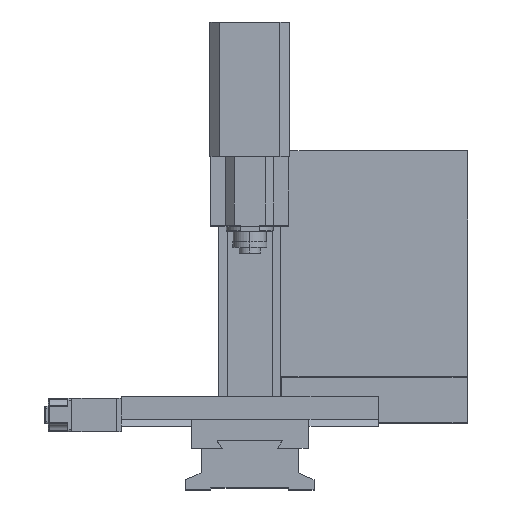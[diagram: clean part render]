
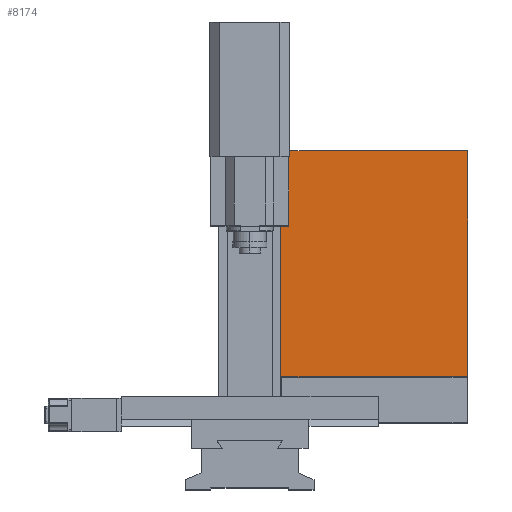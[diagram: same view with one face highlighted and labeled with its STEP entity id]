
A CAD part, top view. The second image highlights one B-rep face of the part: STEP entity #8174.
In plain terms, the highlighted planar face has unit normal (0, 0, 1).
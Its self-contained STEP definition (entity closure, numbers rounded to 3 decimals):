
#873 = EDGE_CURVE ( 'NONE', #4693, #4678, #6381, .T. ) ;
#877 = EDGE_CURVE ( 'NONE', #4678, #4694, #6377, .T. ) ;
#880 = EDGE_CURVE ( 'NONE', #4694, #4698, #6371, .T. ) ;
#882 = EDGE_CURVE ( 'NONE', #4698, #4693, #6361, .T. ) ;
#1230 = AXIS2_PLACEMENT_3D ( 'NONE', #2207, #2212, #2213 ) ;
#1545 = EDGE_LOOP ( 'NONE', ( #3090, #3089, #3088, #3087 ) ) ;
#2206 = PLANE ( 'NONE',  #1230 ) ;
#2207 = CARTESIAN_POINT ( 'NONE',  ( 0., 0., 180. ) ) ;
#2212 = DIRECTION ( 'NONE',  ( 0., 0., -1. ) ) ;
#2213 = DIRECTION ( 'NONE',  ( -1., 0., 0. ) ) ;
#3087 = ORIENTED_EDGE ( 'NONE', *, *, #882, .T. ) ;
#3088 = ORIENTED_EDGE ( 'NONE', *, *, #880, .T. ) ;
#3089 = ORIENTED_EDGE ( 'NONE', *, *, #877, .T. ) ;
#3090 = ORIENTED_EDGE ( 'NONE', *, *, #873, .T. ) ;
#4678 = VERTEX_POINT ( 'NONE', #10838 ) ;
#4693 = VERTEX_POINT ( 'NONE', #10853 ) ;
#4694 = VERTEX_POINT ( 'NONE', #10854 ) ;
#4698 = VERTEX_POINT ( 'NONE', #10858 ) ;
#5893 = FACE_OUTER_BOUND ( 'NONE', #1545, .T. ) ;
#6358 = VECTOR ( 'NONE', #6925, 1000. ) ;
#6361 = LINE ( 'NONE', #6924, #6358 ) ;
#6362 = VECTOR ( 'NONE', #6921, 1000. ) ;
#6368 = VECTOR ( 'NONE', #6916, 1000. ) ;
#6371 = LINE ( 'NONE', #6910, #6362 ) ;
#6376 = VECTOR ( 'NONE', #6909, 1000. ) ;
#6377 = LINE ( 'NONE', #6908, #6368 ) ;
#6381 = LINE ( 'NONE', #6903, #6376 ) ;
#6903 = CARTESIAN_POINT ( 'NONE',  ( 0., 0., 180. ) ) ;
#6908 = CARTESIAN_POINT ( 'NONE',  ( 0., 0., 180. ) ) ;
#6909 = DIRECTION ( 'NONE',  ( 0., -1., 0. ) ) ;
#6910 = CARTESIAN_POINT ( 'NONE',  ( 480., 0., 180. ) ) ;
#6916 = DIRECTION ( 'NONE',  ( 1., 0., 0. ) ) ;
#6921 = DIRECTION ( 'NONE',  ( 0., 1., 0. ) ) ;
#6924 = CARTESIAN_POINT ( 'NONE',  ( 0., 580., 180. ) ) ;
#6925 = DIRECTION ( 'NONE',  ( -1., 0., 0. ) ) ;
#8174 = ADVANCED_FACE ( 'NONE', ( #5893 ), #2206, .F. ) ;
#10838 = CARTESIAN_POINT ( 'NONE',  ( 0., 0., 180. ) ) ;
#10853 = CARTESIAN_POINT ( 'NONE',  ( 0., 580., 180. ) ) ;
#10854 = CARTESIAN_POINT ( 'NONE',  ( 480., 0., 180. ) ) ;
#10858 = CARTESIAN_POINT ( 'NONE',  ( 480., 580., 180. ) ) ;
